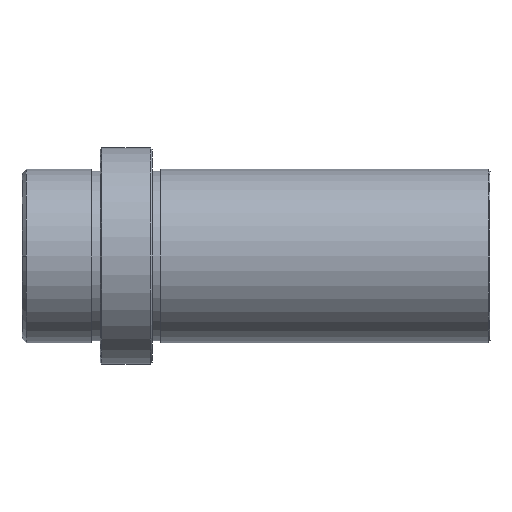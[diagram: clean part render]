
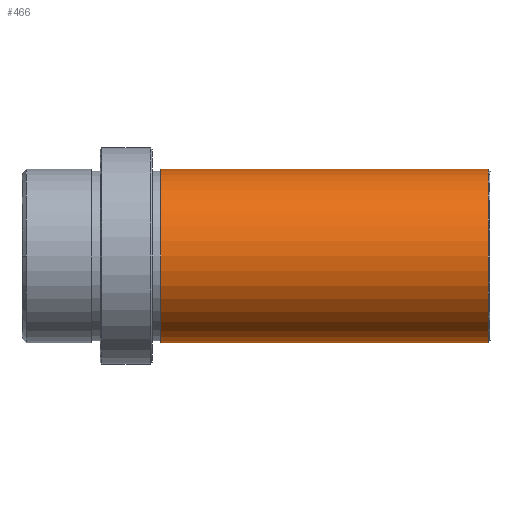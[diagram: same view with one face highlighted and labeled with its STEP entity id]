
A CAD part, front view. The second image highlights one B-rep face of the part: STEP entity #466.
In plain terms, the highlighted cylindrical face has radius 10 mm (diameter 20 mm), a partial arc.
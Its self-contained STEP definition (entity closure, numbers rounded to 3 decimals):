
#28 = ORIENTED_EDGE ( 'NONE', *, *, #263, .F. ) ;
#43 = DIRECTION ( 'NONE',  ( 1., 0., 0. ) ) ;
#65 = ORIENTED_EDGE ( 'NONE', *, *, #875, .T. ) ;
#83 = EDGE_CURVE ( 'NONE', #275, #966, #621, .T. ) ;
#87 = VECTOR ( 'NONE', #989, 1000. ) ;
#108 = CARTESIAN_POINT ( 'NONE',  ( -19.8, -60., -68. ) ) ;
#189 = CARTESIAN_POINT ( 'NONE',  ( -19.8, -60., -88. ) ) ;
#202 = DIRECTION ( 'NONE',  ( 0., 1., 0. ) ) ;
#256 = AXIS2_PLACEMENT_3D ( 'NONE', #657, #584, #295 ) ;
#261 = AXIS2_PLACEMENT_3D ( 'NONE', #653, #760, #440 ) ;
#263 = EDGE_CURVE ( 'NONE', #940, #631, #649, .T. ) ;
#271 = EDGE_CURVE ( 'NONE', #966, #940, #369, .T. ) ;
#275 = VERTEX_POINT ( 'NONE', #432 ) ;
#293 = CARTESIAN_POINT ( 'NONE',  ( -38.7, -60., -68. ) ) ;
#295 = DIRECTION ( 'NONE',  ( 0., 1., 0. ) ) ;
#355 = EDGE_CURVE ( 'NONE', #275, #1030, #519, .T. ) ;
#369 = CIRCLE ( 'NONE', #410, 10. ) ;
#370 = CARTESIAN_POINT ( 'NONE',  ( -0.9, -70., -78. ) ) ;
#410 = AXIS2_PLACEMENT_3D ( 'NONE', #756, #43, #202 ) ;
#432 = CARTESIAN_POINT ( 'NONE',  ( -0.9, -60., -68. ) ) ;
#440 = DIRECTION ( 'NONE',  ( 0., 1., 0. ) ) ;
#466 = ADVANCED_FACE ( 'NONE', ( #771 ), #860, .T. ) ;
#519 = LINE ( 'NONE', #108, #891 ) ;
#584 = DIRECTION ( 'NONE',  ( 1., 0., 0. ) ) ;
#621 = CIRCLE ( 'NONE', #261, 10. ) ;
#631 = VERTEX_POINT ( 'NONE', #881 ) ;
#649 = LINE ( 'NONE', #189, #87 ) ;
#653 = CARTESIAN_POINT ( 'NONE',  ( -0.9, -60., -78. ) ) ;
#657 = CARTESIAN_POINT ( 'NONE',  ( -38.7, -60., -78. ) ) ;
#666 = EDGE_LOOP ( 'NONE', ( #28, #1020, #863, #785, #65 ) ) ;
#684 = DIRECTION ( 'NONE',  ( 0., 0., 1. ) ) ;
#701 = CIRCLE ( 'NONE', #256, 10. ) ;
#742 = DIRECTION ( 'NONE',  ( -1., 0., 0. ) ) ;
#756 = CARTESIAN_POINT ( 'NONE',  ( -0.9, -60., -78. ) ) ;
#760 = DIRECTION ( 'NONE',  ( 1., 0., 0. ) ) ;
#771 = FACE_OUTER_BOUND ( 'NONE', #666, .T. ) ;
#785 = ORIENTED_EDGE ( 'NONE', *, *, #355, .T. ) ;
#860 = CYLINDRICAL_SURFACE ( 'NONE', #959, 10. ) ;
#863 = ORIENTED_EDGE ( 'NONE', *, *, #83, .F. ) ;
#875 = EDGE_CURVE ( 'NONE', #1030, #631, #701, .T. ) ;
#881 = CARTESIAN_POINT ( 'NONE',  ( -38.7, -60., -88. ) ) ;
#891 = VECTOR ( 'NONE', #742, 1000. ) ;
#917 = CARTESIAN_POINT ( 'NONE',  ( -0.9, -60., -88. ) ) ;
#930 = CARTESIAN_POINT ( 'NONE',  ( -19.8, -60., -78. ) ) ;
#940 = VERTEX_POINT ( 'NONE', #917 ) ;
#959 = AXIS2_PLACEMENT_3D ( 'NONE', #930, #1005, #684 ) ;
#966 = VERTEX_POINT ( 'NONE', #370 ) ;
#989 = DIRECTION ( 'NONE',  ( -1., 0., 0. ) ) ;
#1005 = DIRECTION ( 'NONE',  ( -1., 0., 0. ) ) ;
#1020 = ORIENTED_EDGE ( 'NONE', *, *, #271, .F. ) ;
#1030 = VERTEX_POINT ( 'NONE', #293 ) ;
